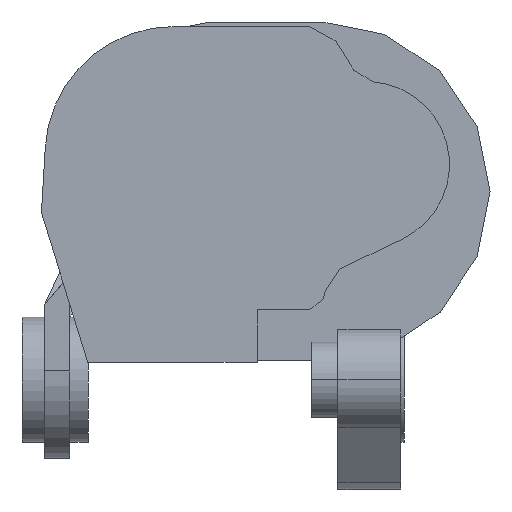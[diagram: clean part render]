
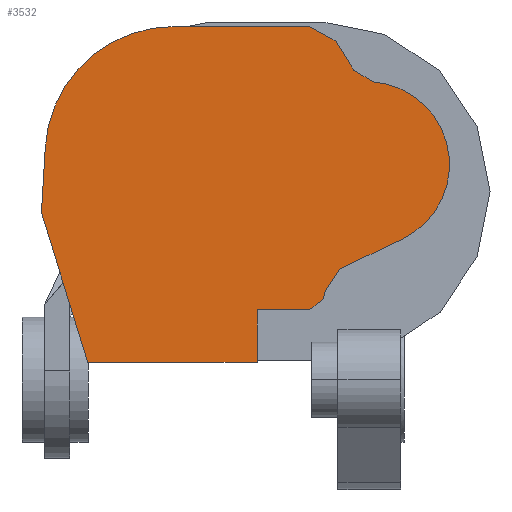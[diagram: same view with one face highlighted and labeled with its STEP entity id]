
A CAD part, left-side view. The second image highlights one B-rep face of the part: STEP entity #3532.
In plain terms, the highlighted planar face has unit normal (-1, 0, 0).
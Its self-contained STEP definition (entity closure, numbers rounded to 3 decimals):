
#3 = ORIENTED_EDGE ( 'NONE', *, *, #329, .T. ) ;
#27 = LINE ( 'NONE', #28, #29 ) ;
#28 = CARTESIAN_POINT ( 'NONE',  ( -254., -35., 1583.8 ) ) ;
#29 = VECTOR ( 'NONE', #30, 1000. ) ;
#30 = DIRECTION ( 'NONE',  ( 0., 0., 1. ) ) ;
#148 = CARTESIAN_POINT ( 'NONE',  ( -254., -35., 1583.8 ) ) ;
#226 = LINE ( 'NONE', #227, #228 ) ;
#227 = CARTESIAN_POINT ( 'NONE',  ( -254., -112.172, 1817.057 ) ) ;
#228 = VECTOR ( 'NONE', #229, 1000. ) ;
#229 = DIRECTION ( 'NONE',  ( 0., 0.524, 0.852 ) ) ;
#236 = CARTESIAN_POINT ( 'NONE',  ( -254., -150.931, 1682.237 ) ) ;
#327 = CARTESIAN_POINT ( 'NONE',  ( -254., -35., 1625.8 ) ) ;
#329 = EDGE_CURVE ( 'NONE', #5858, #569, #4295, .T. ) ;
#463 = CARTESIAN_POINT ( 'NONE',  ( -254., -98.003, 1840.085 ) ) ;
#468 = CIRCLE ( 'NONE', #473, 102.989 ) ;
#473 = AXIS2_PLACEMENT_3D ( 'NONE', #474, #475, #476 ) ;
#474 = CARTESIAN_POINT ( 'NONE',  ( -254., 31.185, 1748.811 ) ) ;
#475 = DIRECTION ( 'NONE',  ( -1., 0., 0. ) ) ;
#476 = DIRECTION ( 'NONE',  ( 0., 0., 1. ) ) ;
#569 = VERTEX_POINT ( 'NONE', #4478 ) ;
#619 = LINE ( 'NONE', #620, #621 ) ;
#620 = CARTESIAN_POINT ( 'NONE',  ( -254., -88.03, 1634.638 ) ) ;
#621 = VECTOR ( 'NONE', #622, 1000. ) ;
#622 = DIRECTION ( 'NONE',  ( 0., -0.214, 0.977 ) ) ;
#709 = CARTESIAN_POINT ( 'NONE',  ( -254., -89.537, 1641.524 ) ) ;
#830 = LINE ( 'NONE', #831, #832 ) ;
#831 = CARTESIAN_POINT ( 'NONE',  ( -254., -35., 1625.8 ) ) ;
#832 = VECTOR ( 'NONE', #833, 1000. ) ;
#833 = DIRECTION ( 'NONE',  ( 0., -1., 0. ) ) ;
#857 = ORIENTED_EDGE ( 'NONE', *, *, #2524, .T. ) ;
#860 = LINE ( 'NONE', #861, #862 ) ;
#861 = CARTESIAN_POINT ( 'NONE',  ( -254., -98.003, 1840.085 ) ) ;
#862 = VECTOR ( 'NONE', #863, 1000. ) ;
#863 = DIRECTION ( 'NONE',  ( 0., 0.873, 0.488 ) ) ;
#924 = CARTESIAN_POINT ( 'NONE',  ( -254., -77.048, 1625.8 ) ) ;
#941 = LINE ( 'NONE', #942, #943 ) ;
#942 = CARTESIAN_POINT ( 'NONE',  ( -254., -89.537, 1641.524 ) ) ;
#943 = VECTOR ( 'NONE', #944, 1000. ) ;
#944 = DIRECTION ( 'NONE',  ( 0., -0.559, 0.829 ) ) ;
#945 = CARTESIAN_POINT ( 'NONE',  ( -254., -77.038, 1851.8 ) ) ;
#1479 = CARTESIAN_POINT ( 'NONE',  ( -254., 137., 1703.3 ) ) ;
#1901 = LINE ( 'NONE', #1902, #1903 ) ;
#1902 = CARTESIAN_POINT ( 'NONE',  ( -254., 137., 1703.3 ) ) ;
#1903 = VECTOR ( 'NONE', #1904, 1000. ) ;
#1904 = DIRECTION ( 'NONE',  ( 0., -0.296, -0.955 ) ) ;
#1985 = CARTESIAN_POINT ( 'NONE',  ( -254., 100., 1583.8 ) ) ;
#1986 = CARTESIAN_POINT ( 'NONE',  ( -254., -100.885, 1658.349 ) ) ;
#2041 = LINE ( 'NONE', #2042, #2043 ) ;
#2042 = CARTESIAN_POINT ( 'NONE',  ( -254., -77.038, 1851.8 ) ) ;
#2043 = VECTOR ( 'NONE', #2044, 1000. ) ;
#2044 = DIRECTION ( 'NONE',  ( 0., 1., 0. ) ) ;
#2119 = CARTESIAN_POINT ( 'NONE',  ( -254., 31.185, 1851.8 ) ) ;
#2280 = LINE ( 'NONE', #2281, #2282 ) ;
#2281 = CARTESIAN_POINT ( 'NONE',  ( -254., 100., 1583.8 ) ) ;
#2282 = VECTOR ( 'NONE', #2283, 1000. ) ;
#2283 = DIRECTION ( 'NONE',  ( 0., -1., 0. ) ) ;
#2299 = LINE ( 'NONE', #2300, #2301 ) ;
#2300 = CARTESIAN_POINT ( 'NONE',  ( -254., -100.885, 1658.349 ) ) ;
#2301 = VECTOR ( 'NONE', #2302, 1000. ) ;
#2302 = DIRECTION ( 'NONE',  ( 0., -0.902, 0.431 ) ) ;
#2524 = EDGE_CURVE ( 'NONE', #569, #2548, #6034, .T. ) ;
#2548 = VERTEX_POINT ( 'NONE', #6131 ) ;
#2591 = ORIENTED_EDGE ( 'NONE', *, *, #2625, .T. ) ;
#2625 = EDGE_CURVE ( 'NONE', #2548, #2644, #226, .T. ) ;
#2644 = VERTEX_POINT ( 'NONE', #463 ) ;
#2685 = ORIENTED_EDGE ( 'NONE', *, *, #2714, .T. ) ;
#2714 = EDGE_CURVE ( 'NONE', #2644, #2732, #860, .T. ) ;
#2732 = VERTEX_POINT ( 'NONE', #945 ) ;
#3002 = ORIENTED_EDGE ( 'NONE', *, *, #3035, .T. ) ;
#3035 = EDGE_CURVE ( 'NONE', #2732, #3069, #2041, .T. ) ;
#3069 = VERTEX_POINT ( 'NONE', #2119 ) ;
#3117 = ORIENTED_EDGE ( 'NONE', *, *, #3152, .T. ) ;
#3152 = EDGE_CURVE ( 'NONE', #3069, #3178, #468, .T. ) ;
#3178 = VERTEX_POINT ( 'NONE', #4126 ) ;
#3229 = ORIENTED_EDGE ( 'NONE', *, *, #3264, .T. ) ;
#3264 = EDGE_CURVE ( 'NONE', #3178, #4074, #4639, .T. ) ;
#3532 = ADVANCED_FACE ( 'NONE', ( #5831 ), #5832, .T. ) ;
#3574 = EDGE_LOOP ( 'NONE', ( #3642, #3814, #3582, #3743, #3890, #5326, #3, #857, #2591, #2685, #3002, #3117, #3229, #4334, #5284 ) ) ;
#3582 = ORIENTED_EDGE ( 'NONE', *, *, #3627, .T. ) ;
#3627 = EDGE_CURVE ( 'NONE', #3892, #3661, #6154, .T. ) ;
#3642 = ORIENTED_EDGE ( 'NONE', *, *, #3680, .T. ) ;
#3661 = VERTEX_POINT ( 'NONE', #6258 ) ;
#3680 = EDGE_CURVE ( 'NONE', #3715, #3745, #27, .T. ) ;
#3715 = VERTEX_POINT ( 'NONE', #148 ) ;
#3743 = ORIENTED_EDGE ( 'NONE', *, *, #3792, .T. ) ;
#3745 = VERTEX_POINT ( 'NONE', #327 ) ;
#3792 = EDGE_CURVE ( 'NONE', #3661, #3827, #619, .T. ) ;
#3814 = ORIENTED_EDGE ( 'NONE', *, *, #3862, .T. ) ;
#3827 = VERTEX_POINT ( 'NONE', #709 ) ;
#3862 = EDGE_CURVE ( 'NONE', #3745, #3892, #830, .T. ) ;
#3890 = ORIENTED_EDGE ( 'NONE', *, *, #3906, .T. ) ;
#3892 = VERTEX_POINT ( 'NONE', #924 ) ;
#3906 = EDGE_CURVE ( 'NONE', #3827, #4896, #941, .T. ) ;
#4074 = VERTEX_POINT ( 'NONE', #1479 ) ;
#4126 = CARTESIAN_POINT ( 'NONE',  ( -254., 134., 1754.8 ) ) ;
#4295 = CIRCLE ( 'NONE', #4296, 66. ) ;
#4296 = AXIS2_PLACEMENT_3D ( 'NONE', #4297, #4299, #4300 ) ;
#4297 = CARTESIAN_POINT ( 'NONE',  ( -254., -122.5, 1741.8 ) ) ;
#4299 = DIRECTION ( 'NONE',  ( -1., 0., 0. ) ) ;
#4300 = DIRECTION ( 'NONE',  ( 0., 0., 1. ) ) ;
#4334 = ORIENTED_EDGE ( 'NONE', *, *, #4647, .T. ) ;
#4478 = CARTESIAN_POINT ( 'NONE',  ( -254., -127.646, 1807.599 ) ) ;
#4639 = LINE ( 'NONE', #4640, #4641 ) ;
#4640 = CARTESIAN_POINT ( 'NONE',  ( -254., 134., 1754.8 ) ) ;
#4641 = VECTOR ( 'NONE', #4642, 1000. ) ;
#4642 = DIRECTION ( 'NONE',  ( 0., 0.058, -0.998 ) ) ;
#4647 = EDGE_CURVE ( 'NONE', #4074, #4862, #1901, .T. ) ;
#4862 = VERTEX_POINT ( 'NONE', #1985 ) ;
#4896 = VERTEX_POINT ( 'NONE', #1986 ) ;
#5284 = ORIENTED_EDGE ( 'NONE', *, *, #5602, .T. ) ;
#5326 = ORIENTED_EDGE ( 'NONE', *, *, #5641, .T. ) ;
#5602 = EDGE_CURVE ( 'NONE', #4862, #3715, #2280, .T. ) ;
#5641 = EDGE_CURVE ( 'NONE', #4896, #5858, #2299, .T. ) ;
#5831 = FACE_OUTER_BOUND ( 'NONE', #3574, .T. ) ;
#5832 = PLANE ( 'NONE',  #5833 ) ;
#5833 = AXIS2_PLACEMENT_3D ( 'NONE', #5834, #5835, #5836 ) ;
#5834 = CARTESIAN_POINT ( 'NONE',  ( -254., -122.5, 1741.8 ) ) ;
#5835 = DIRECTION ( 'NONE',  ( -1., 0., 0. ) ) ;
#5836 = DIRECTION ( 'NONE',  ( 0., 0., 1. ) ) ;
#5858 = VERTEX_POINT ( 'NONE', #236 ) ;
#6034 = LINE ( 'NONE', #6035, #6036 ) ;
#6035 = CARTESIAN_POINT ( 'NONE',  ( -254., -127.646, 1807.599 ) ) ;
#6036 = VECTOR ( 'NONE', #6037, 1000. ) ;
#6037 = DIRECTION ( 'NONE',  ( 0., 0.853, 0.522 ) ) ;
#6131 = CARTESIAN_POINT ( 'NONE',  ( -254., -112.172, 1817.057 ) ) ;
#6154 = LINE ( 'NONE', #6155, #6156 ) ;
#6155 = CARTESIAN_POINT ( 'NONE',  ( -254., -77.048, 1625.8 ) ) ;
#6156 = VECTOR ( 'NONE', #6157, 1000. ) ;
#6157 = DIRECTION ( 'NONE',  ( 0., -0.779, 0.627 ) ) ;
#6258 = CARTESIAN_POINT ( 'NONE',  ( -254., -88.03, 1634.638 ) ) ;
